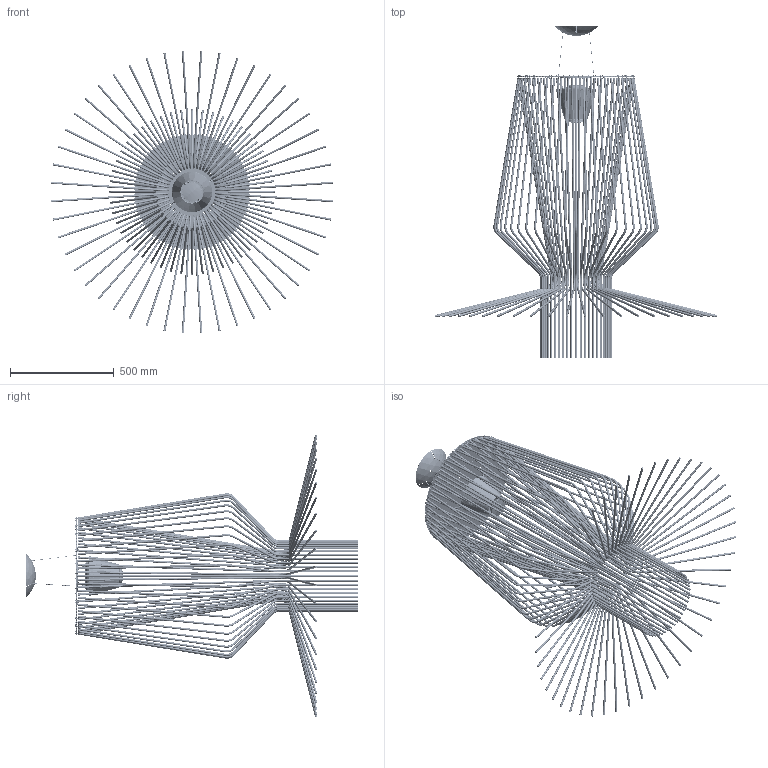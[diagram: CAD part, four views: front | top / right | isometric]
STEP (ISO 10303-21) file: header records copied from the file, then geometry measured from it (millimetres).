
FILE_DESCRIPTION (( 'STEP AP214' ), '1' );
FILE_NAME ('169_ASSAI_S_PL_3D.STEP', '2021-05-10T07:00:52', ( '' ), ( '' ), 'SwSTEP 2.0', 'SolidWorks 2021', '' );
FILE_SCHEMA (( 'AUTOMOTIVE_DESIGN' ));
Length unit declared in the file: millimetre
Products named in the file (1): 169_ASSAI_S_PL_3D
Bounding box: 1364.57 x 1600.32 x 1364.57 mm (x, y, z)
Volume: 12400264.1 mm3; surface area: 5492020.8 mm2
Topology: 218 solids, 219 shells, 9910 faces, 25510 edges, 16090 vertices
Faces by surface type: cylinder 3566, torus 2678, plane 2499, cone 675, bspline 480, sphere 12
Entity records: 441418 total; most frequent: CARTESIAN_POINT 79841, DIRECTION 58399, ORIENTED_EDGE 51020, EDGE_CURVE 25510, AXIS2_PLACEMENT_3D 25122, VERTEX_POINT 16090, CIRCLE 15691, EDGE_LOOP 10280
